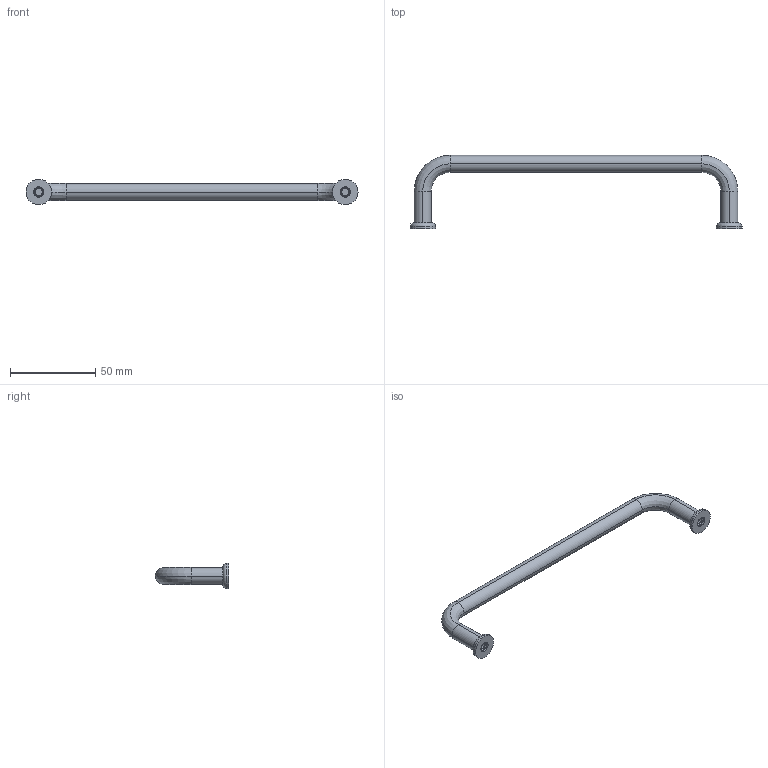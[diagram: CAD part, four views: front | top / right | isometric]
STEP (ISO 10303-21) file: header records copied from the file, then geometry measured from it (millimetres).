
FILE_DESCRIPTION(('STEP AP203'),'2;1');
FILE_NAME('40006.stp','2016-01-04T15:47:16',(''),(''),'2008.1.107','THINKDESIGN','');
FILE_SCHEMA(('CONFIG_CONTROL_DESIGN'));
Length unit declared in the file: millimetre
Bounding box: 195 x 43 x 15 mm (x, y, z)
Volume: 19543.7 mm3; surface area: 9519.3 mm2
Topology: 5 solids, 5 shells, 48 faces, 112 edges, 76 vertices
Faces by surface type: cylinder 22, bspline 14, plane 12
Full cylindrical faces by diameter (mm): 4.2 x4, 6 x2, 15 x4
Entity records: 2921 total; most frequent: CARTESIAN_POINT 1664, DIRECTION 266, ORIENTED_EDGE 224, AXIS2_PLACEMENT_3D 120, EDGE_CURVE 112, CIRCLE 86, VERTEX_POINT 76, EDGE_LOOP 58
